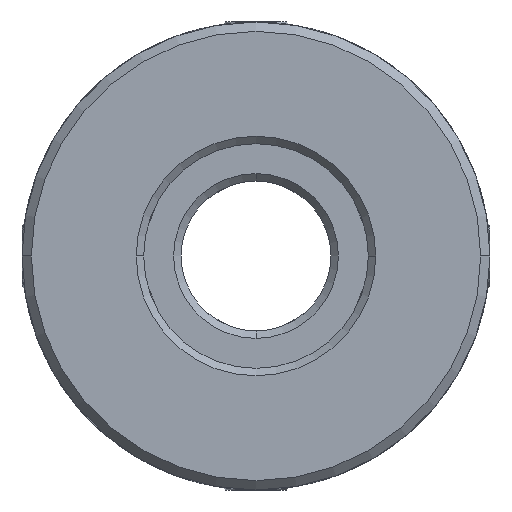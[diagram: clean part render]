
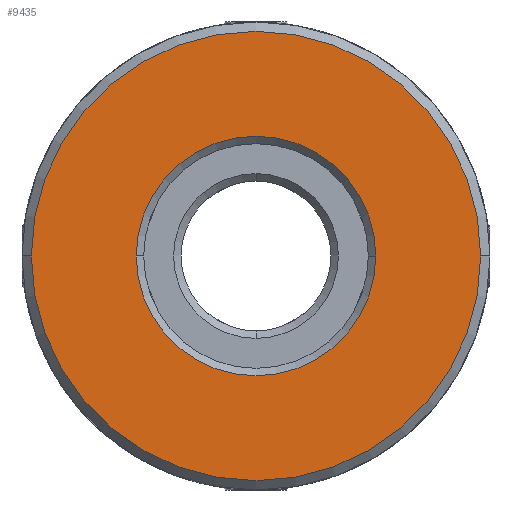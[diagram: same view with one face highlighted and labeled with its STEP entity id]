
A CAD part, front view. The second image highlights one B-rep face of the part: STEP entity #9435.
In plain terms, the highlighted planar face has unit normal (0, -1, 0).
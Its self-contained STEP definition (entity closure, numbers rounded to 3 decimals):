
#39 = ORIENTED_EDGE ( 'NONE', *, *, #5522, .T. ) ;
#218 = CARTESIAN_POINT ( 'NONE',  ( -19.597, -28., -50. ) ) ;
#1006 = DIRECTION ( 'NONE',  ( 0., 1., 0. ) ) ;
#1596 = DIRECTION ( 'NONE',  ( 0., -1., 0. ) ) ;
#2065 = CARTESIAN_POINT ( 'NONE',  ( 6.4, -28., 0. ) ) ;
#2179 = VERTEX_POINT ( 'NONE', #2065 ) ;
#2411 = DIRECTION ( 'NONE',  ( -1., 0., 0. ) ) ;
#2593 = AXIS2_PLACEMENT_3D ( 'NONE', #3515, #4318, #5097 ) ;
#2602 = FACE_BOUND ( 'NONE', #7204, .T. ) ;
#3435 = ORIENTED_EDGE ( 'NONE', *, *, #6274, .T. ) ;
#3515 = CARTESIAN_POINT ( 'NONE',  ( 0., -28., 0. ) ) ;
#3897 = EDGE_CURVE ( 'NONE', #6945, #5176, #5785, .T. ) ;
#4318 = DIRECTION ( 'NONE',  ( 0., 1., 0. ) ) ;
#4403 = ORIENTED_EDGE ( 'NONE', *, *, #3897, .T. ) ;
#4408 = AXIS2_PLACEMENT_3D ( 'NONE', #6046, #6014, #5264 ) ;
#4576 = CIRCLE ( 'NONE', #6647, 12. ) ;
#4704 = PLANE ( 'NONE',  #7115 ) ;
#4868 = CARTESIAN_POINT ( 'NONE',  ( 0., -28., 0. ) ) ;
#4920 = CIRCLE ( 'NONE', #4408, 6.4 ) ;
#5097 = DIRECTION ( 'NONE',  ( -1., 0., 0. ) ) ;
#5176 = VERTEX_POINT ( 'NONE', #9002 ) ;
#5264 = DIRECTION ( 'NONE',  ( -1., 0., 0. ) ) ;
#5470 = CARTESIAN_POINT ( 'NONE',  ( 12., -28., 0. ) ) ;
#5491 = FACE_OUTER_BOUND ( 'NONE', #7691, .T. ) ;
#5515 = CIRCLE ( 'NONE', #2593, 6.4 ) ;
#5522 = EDGE_CURVE ( 'NONE', #5176, #6945, #4576, .T. ) ;
#5582 = DIRECTION ( 'NONE',  ( 0., -1., 0. ) ) ;
#5627 = DIRECTION ( 'NONE',  ( -1., 0., 0. ) ) ;
#5785 = CIRCLE ( 'NONE', #7087, 12. ) ;
#6014 = DIRECTION ( 'NONE',  ( 0., 1., 0. ) ) ;
#6046 = CARTESIAN_POINT ( 'NONE',  ( 0., -28., 0. ) ) ;
#6274 = EDGE_CURVE ( 'NONE', #6742, #2179, #4920, .T. ) ;
#6314 = CARTESIAN_POINT ( 'NONE',  ( -6.4, -28., 0. ) ) ;
#6647 = AXIS2_PLACEMENT_3D ( 'NONE', #7792, #1596, #2411 ) ;
#6742 = VERTEX_POINT ( 'NONE', #6314 ) ;
#6945 = VERTEX_POINT ( 'NONE', #5470 ) ;
#7087 = AXIS2_PLACEMENT_3D ( 'NONE', #4868, #5582, #8668 ) ;
#7115 = AXIS2_PLACEMENT_3D ( 'NONE', #218, #1006, #5627 ) ;
#7204 = EDGE_LOOP ( 'NONE', ( #9464, #3435 ) ) ;
#7635 = EDGE_CURVE ( 'NONE', #2179, #6742, #5515, .T. ) ;
#7691 = EDGE_LOOP ( 'NONE', ( #39, #4403 ) ) ;
#7792 = CARTESIAN_POINT ( 'NONE',  ( 0., -28., 0. ) ) ;
#8668 = DIRECTION ( 'NONE',  ( -1., 0., 0. ) ) ;
#9002 = CARTESIAN_POINT ( 'NONE',  ( -12., -28., 0. ) ) ;
#9435 = ADVANCED_FACE ( 'NONE', ( #5491, #2602 ), #4704, .F. ) ;
#9464 = ORIENTED_EDGE ( 'NONE', *, *, #7635, .T. ) ;
